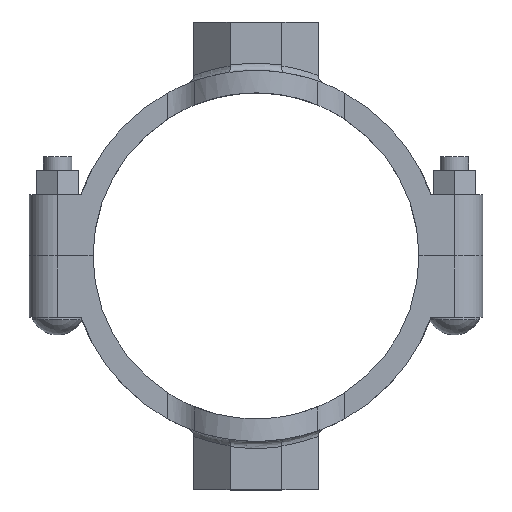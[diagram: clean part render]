
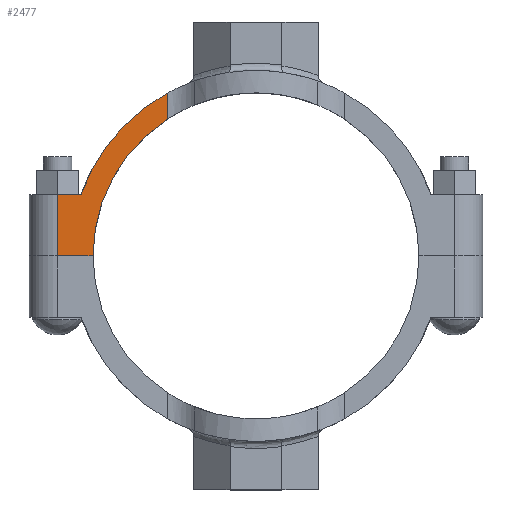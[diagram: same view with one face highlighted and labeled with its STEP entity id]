
A CAD part, top view. The second image highlights one B-rep face of the part: STEP entity #2477.
In plain terms, the highlighted planar face has unit normal (0, 0, 1) as drawn and (0, 0, -1) by its records, which use the part's own axes.
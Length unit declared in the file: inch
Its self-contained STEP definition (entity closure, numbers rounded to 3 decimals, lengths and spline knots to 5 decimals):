
#245=FACE_OUTER_BOUND('',#386,.T.);
#386=EDGE_LOOP('',(#1788,#1789,#1790,#1791,#1792,#1793));
#558=LINE('',#4301,#744);
#559=LINE('',#4303,#745);
#560=LINE('',#4305,#746);
#561=LINE('',#4306,#747);
#744=VECTOR('',#3144,0.3937);
#745=VECTOR('',#3145,0.3937);
#746=VECTOR('',#3146,0.3937);
#747=VECTOR('',#3147,0.3937);
#865=CIRCLE('',#2665,4.906);
#889=CIRCLE('',#2717,4.3125);
#998=VERTEX_POINT('',#3937);
#999=VERTEX_POINT('',#3939);
#1046=VERTEX_POINT('',#4222);
#1047=VERTEX_POINT('',#4235);
#1056=VERTEX_POINT('',#4302);
#1057=VERTEX_POINT('',#4304);
#1255=EDGE_CURVE('',#999,#998,#865,.T.);
#1324=EDGE_CURVE('',#1047,#1046,#889,.T.);
#1336=EDGE_CURVE('',#1046,#999,#558,.T.);
#1337=EDGE_CURVE('',#998,#1056,#559,.T.);
#1338=EDGE_CURVE('',#1057,#1056,#560,.T.);
#1339=EDGE_CURVE('',#1057,#1047,#561,.T.);
#1788=ORIENTED_EDGE('',*,*,#1324,.T.);
#1789=ORIENTED_EDGE('',*,*,#1336,.T.);
#1790=ORIENTED_EDGE('',*,*,#1255,.T.);
#1791=ORIENTED_EDGE('',*,*,#1337,.T.);
#1792=ORIENTED_EDGE('',*,*,#1338,.F.);
#1793=ORIENTED_EDGE('',*,*,#1339,.T.);
#2249=PLANE('',#2721);
#2477=ADVANCED_FACE('',(#245),#2249,.T.);
#2665=AXIS2_PLACEMENT_3D('',#3940,#2986,#2987);
#2717=AXIS2_PLACEMENT_3D('',#4236,#3128,#3129);
#2721=AXIS2_PLACEMENT_3D('',#4300,#3142,#3143);
#2986=DIRECTION('center_axis',(0.,0.,-1.));
#2987=DIRECTION('ref_axis',(0.944,0.331,0.));
#3128=DIRECTION('center_axis',(0.,0.,1.));
#3129=DIRECTION('ref_axis',(-1.,0.,0.));
#3142=DIRECTION('center_axis',(0.,0.,-1.));
#3143=DIRECTION('ref_axis',(-1.,0.,0.));
#3144=DIRECTION('',(0.,1.,0.));
#3145=DIRECTION('',(1.,0.,0.));
#3146=DIRECTION('',(0.,1.,0.));
#3147=DIRECTION('',(-1.,0.,0.));
#3937=CARTESIAN_POINT('',(4.62906,1.625,-1.25));
#3939=CARTESIAN_POINT('',(2.34521,4.30916,-1.25));
#3940=CARTESIAN_POINT('Origin',(0.,0.,-1.25));
#4222=CARTESIAN_POINT('',(2.34521,3.61907,-1.25));
#4235=CARTESIAN_POINT('',(4.3125,0.,-1.25));
#4236=CARTESIAN_POINT('Origin',(0.,0.,-1.25));
#4300=CARTESIAN_POINT('Origin',(5.25,0.,-1.25));
#4301=CARTESIAN_POINT('',(2.34521,0.,-1.25));
#4302=CARTESIAN_POINT('',(5.25,1.625,-1.25));
#4303=CARTESIAN_POINT('',(4.93953,1.625,-1.25));
#4304=CARTESIAN_POINT('',(5.25,0.,-1.25));
#4305=CARTESIAN_POINT('',(5.25,0.,-1.25));
#4306=CARTESIAN_POINT('',(5.25,0.,-1.25));
